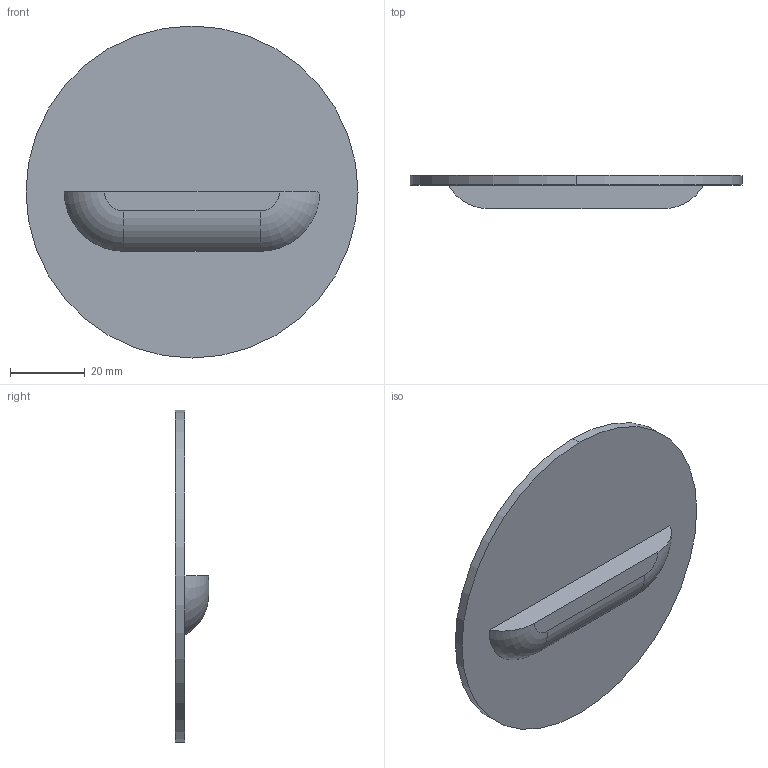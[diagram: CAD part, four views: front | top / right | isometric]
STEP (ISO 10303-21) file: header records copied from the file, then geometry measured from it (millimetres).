
FILE_DESCRIPTION (( 'STEP AP203' ), '1' );
FILE_NAME ('L61 935915-10 FU PROG LOUVER .625D X .250H X .100THK.STEP', '2025-01-28T13:52:37', ( '' ), ( '' ), 'SwSTEP 2.0', 'SolidWorks 2024', '' );
FILE_SCHEMA (( 'CONFIG_CONTROL_DESIGN' ));
Length unit declared in the file: inch
Products named in the file (1): L61 935915-10 FU PROG LOUVER .625D X .250H X .100THK
Bounding box: 88.9 x 8.89 x 88.9 mm (x, y, z)
Volume: 20414 mm3; surface area: 13704.4 mm2
Topology: 1 solids, 1 shells, 9 faces, 18 edges, 12 vertices
Faces by surface type: plane 4, cylinder 3, torus 2
Entity records: 323 total; most frequent: DIRECTION 50, CARTESIAN_POINT 40, ORIENTED_EDGE 36, AXIS2_PLACEMENT_3D 22, EDGE_CURVE 18, CIRCLE 12, VERTEX_POINT 12, EDGE_LOOP 10
